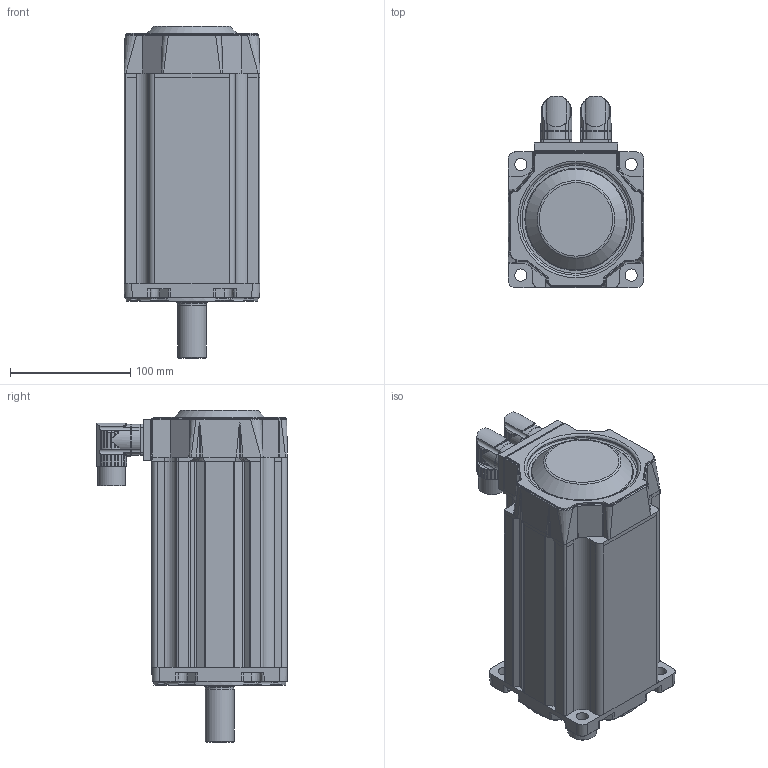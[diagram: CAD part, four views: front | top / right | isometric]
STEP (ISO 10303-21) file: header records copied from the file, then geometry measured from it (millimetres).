
FILE_DESCRIPTION((''),'2;1');
FILE_NAME('C:\Documents and Settings\jevans\My Documents\Engineering Projects\MPJ\MPJ1152XXX_NPSB.stp','2007-05-02T10:25:33',('jevans'),(''),'Autodesk Inventor 11','Autodesk Inventor 11','');
FILE_SCHEMA(('AUTOMOTIVE_DESIGN { 1 0 10303 214 1 1 1 1 }'));
Length unit declared in the file: inch
Products named in the file (3): MPJ1152XXX_NPSB; MPP115_MOTOR_1; MPP115_MOTOR_2
Assembly tree (2 placements, depth 2):
  MPJ1152XXX_NPSB
    MPP115_MOTOR_1
    MPP115_MOTOR_2
Bounding box: 113.03 x 159.03 x 276.3 mm (x, y, z)
Volume: 2467297.7 mm3; surface area: 177143 mm2
Topology: 2 solids, 2 shells, 1012 faces, 2579 edges, 1621 vertices
Faces by surface type: cylinder 441, plane 307, bspline 158, cone 86, torus 18, sphere 2
Full cylindrical faces by diameter (mm): 0.178 x1, 1.143 x17, 2.032 x6, 2.794 x2, 6.35 x8, 6.655 x1, 10.185 x4, 19.05 x2, 19.685 x2, 22.86 x2, 23.647 x1, 24.003 x1, 24.994 x2, 31.75 x1, 47.549 x1, 54.61 x1, 61.468 x1, 62.001 x1, 62.027 x1, 62.268 x1, 65.634 x1, 69.85 x1, 71.12 x1, 93.066 x1, 109.995 x1
Entity records: 38547 total; most frequent: CARTESIAN_POINT 15126, ORIENTED_EDGE 4942, DIRECTION 4675, EDGE_CURVE 2471, AXIS2_PLACEMENT_3D 1811, VERTEX_POINT 1598, EDGE_LOOP 1163, VECTOR 1053
